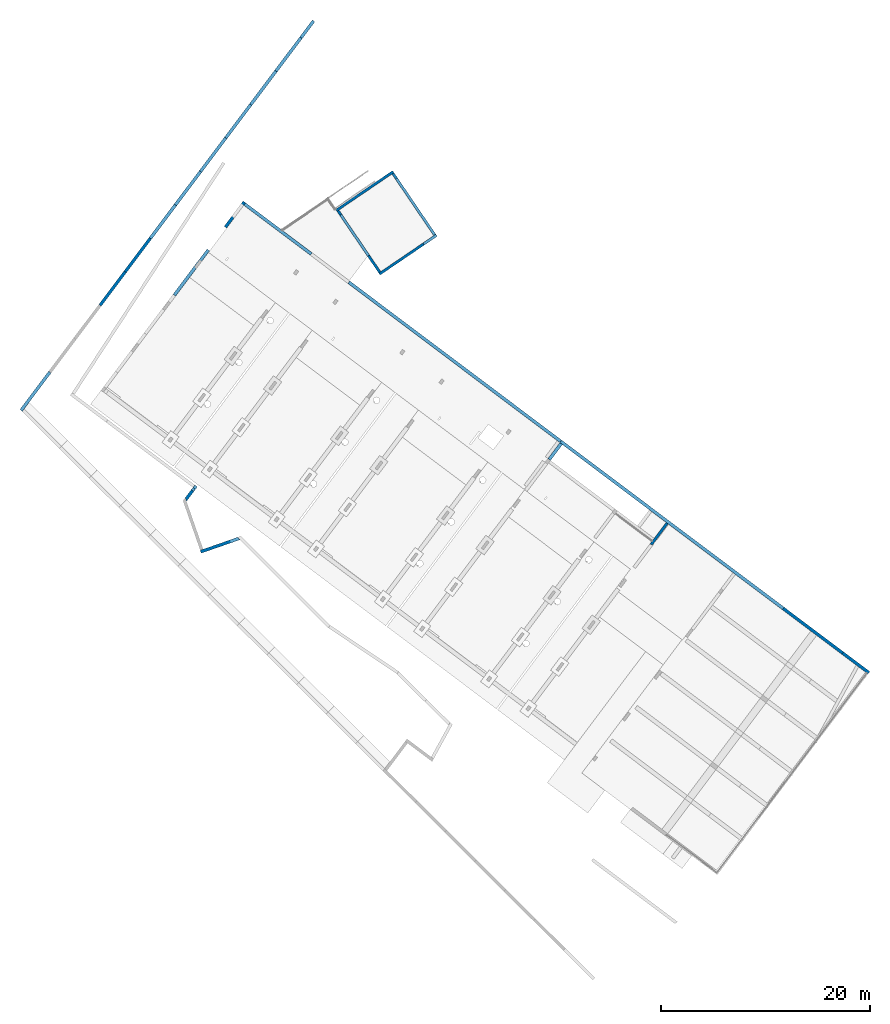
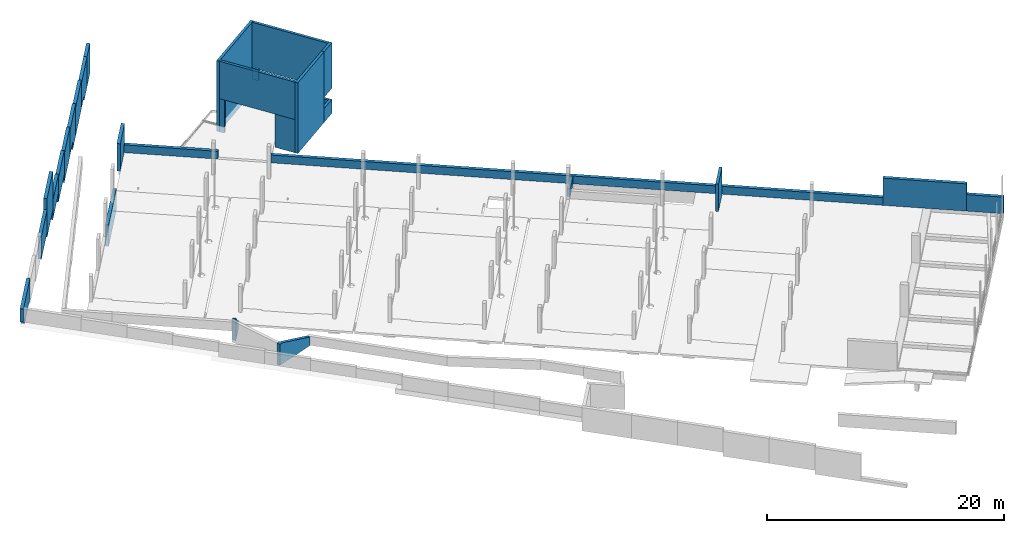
# One storey, part 22 of 24: 31 walls, 2 openings.
"""IFC2X3 building model written with IfcOpenShell, lengths in metres."""

from ifc_helpers import new_model, entity, si_unit, converted_unit, derived_unit, direction, frame, frame_2d, origin, origin_2d_with_axis, place, context, subcontext, project, spatial, rectangle, extrude, faceted_brep, material, layer, layer_set, layer_usage, type_object, element, save


model = new_model("IFC2X3")

# Units and contexts
model_context = context("Model", 3, precision=1e-05, world=origin(), true_north=direction((6.123031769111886e-17, 1.0)))
body_context = subcontext(model_context, "Body", "Model", "MODEL_VIEW")
ifc_project = project(units=[si_unit("LENGTHUNIT", "METRE"), si_unit("AREAUNIT", "SQUARE_METRE"), si_unit("VOLUMEUNIT", "CUBIC_METRE"), converted_unit("PLANEANGLEUNIT", "DEGREE", entity("IfcRatioMeasure", 0.017453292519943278), si_unit("PLANEANGLEUNIT", "RADIAN"), dimensions=[0, 0, 0, 0, 0, 0, 0]), si_unit("MASSUNIT", "GRAM", prefix="KILO"), derived_unit("MASSDENSITYUNIT", [(si_unit("MASSUNIT", "GRAM", prefix="KILO"), 1), (si_unit("LENGTHUNIT", "METRE"), -3)]), derived_unit("IONCONCENTRATIONUNIT", [(si_unit("MASSUNIT", "GRAM", prefix="KILO"), 1), (si_unit("LENGTHUNIT", "METRE"), -3)]), derived_unit("MOMENTOFINERTIAUNIT", [(si_unit("LENGTHUNIT", "METRE"), 4)]), si_unit("TIMEUNIT", "SECOND"), si_unit("FREQUENCYUNIT", "HERTZ"), si_unit("THERMODYNAMICTEMPERATUREUNIT", "DEGREE_CELSIUS"), derived_unit("THERMALTRANSMITTANCEUNIT", [(si_unit("MASSUNIT", "GRAM", prefix="KILO"), 1), (si_unit("THERMODYNAMICTEMPERATUREUNIT", "KELVIN"), -1), (si_unit("TIMEUNIT", "SECOND"), -3)]), derived_unit("THERMALCONDUCTANCEUNIT", [(si_unit("MASSUNIT", "GRAM", prefix="KILO"), 1), (si_unit("THERMODYNAMICTEMPERATUREUNIT", "KELVIN"), -1), (si_unit("TIMEUNIT", "SECOND"), -3), (si_unit("LENGTHUNIT", "METRE"), 1)]), derived_unit("VOLUMETRICFLOWRATEUNIT", [(si_unit("LENGTHUNIT", "METRE"), 3), (si_unit("TIMEUNIT", "SECOND"), -1)]), derived_unit("MASSFLOWRATEUNIT", [(si_unit("MASSUNIT", "GRAM", prefix="KILO"), 1), (si_unit("TIMEUNIT", "SECOND"), -1)]), derived_unit("ROTATIONALFREQUENCYUNIT", [(si_unit("TIMEUNIT", "SECOND"), -1)]), si_unit("ELECTRICCURRENTUNIT", "AMPERE"), si_unit("ELECTRICVOLTAGEUNIT", "VOLT"), si_unit("POWERUNIT", "WATT"), si_unit("FORCEUNIT", "NEWTON", prefix="KILO"), si_unit("ILLUMINANCEUNIT", "LUX"), si_unit("LUMINOUSFLUXUNIT", "LUMEN"), si_unit("LUMINOUSINTENSITYUNIT", "CANDELA"), derived_unit("USERDEFINED", [(si_unit("MASSUNIT", "GRAM", prefix="KILO"), -1), (si_unit("LENGTHUNIT", "METRE"), -2), (si_unit("TIMEUNIT", "SECOND"), 3), (si_unit("LUMINOUSFLUXUNIT", "LUMEN"), 1)]), derived_unit("USERDEFINED", [(si_unit("MASSUNIT", "GRAM", prefix="KILO"), 1), (si_unit("TIMEUNIT", "SECOND"), -3), (si_unit("LENGTHUNIT", "METRE"), 3), (si_unit("ELECTRICCURRENTUNIT", "AMPERE"), -2)]), derived_unit("SOUNDPOWERUNIT", [(si_unit("MASSUNIT", "GRAM", prefix="KILO"), 1), (si_unit("TIMEUNIT", "SECOND"), -3), (si_unit("LENGTHUNIT", "METRE"), 2)]), derived_unit("SOUNDPRESSUREUNIT", [(si_unit("MASSUNIT", "GRAM", prefix="KILO"), 1), (si_unit("LENGTHUNIT", "METRE"), -1), (si_unit("TIMEUNIT", "SECOND"), -2)]), derived_unit("LINEARVELOCITYUNIT", [(si_unit("LENGTHUNIT", "METRE"), 1), (si_unit("TIMEUNIT", "SECOND"), -1)]), si_unit("PRESSUREUNIT", "PASCAL"), derived_unit("USERDEFINED", [(si_unit("MASSUNIT", "GRAM", prefix="KILO"), 1), (si_unit("LENGTHUNIT", "METRE"), -2), (si_unit("TIMEUNIT", "SECOND"), -2)]), derived_unit("LINEARFORCEUNIT", [(si_unit("MASSUNIT", "GRAM", prefix="KILO"), 1), (si_unit("TIMEUNIT", "SECOND"), -2)]), derived_unit("PLANARFORCEUNIT", [(si_unit("MASSUNIT", "GRAM", prefix="KILO"), 1), (si_unit("LENGTHUNIT", "METRE"), -1), (si_unit("TIMEUNIT", "SECOND"), -2)]), derived_unit("SPECIFICHEATCAPACITYUNIT", [(si_unit("THERMODYNAMICTEMPERATUREUNIT", "KELVIN"), -1), (si_unit("LENGTHUNIT", "METRE"), 2), (si_unit("TIMEUNIT", "SECOND"), -2)]), derived_unit("HEATINGVALUEUNIT", [(si_unit("LENGTHUNIT", "METRE"), 2), (si_unit("TIMEUNIT", "SECOND"), -2)]), derived_unit("VAPORPERMEABILITYUNIT", [(si_unit("LENGTHUNIT", "METRE"), -1), (si_unit("TIMEUNIT", "SECOND"), 1)]), derived_unit("DYNAMICVISCOSITYUNIT", [(si_unit("MASSUNIT", "GRAM", prefix="KILO"), 1), (si_unit("TIMEUNIT", "SECOND"), -1), (si_unit("LENGTHUNIT", "METRE"), -1)]), derived_unit("THERMALEXPANSIONCOEFFICIENTUNIT", [(si_unit("THERMODYNAMICTEMPERATUREUNIT", "KELVIN"), -1)]), derived_unit("MODULUSOFELASTICITYUNIT", [(si_unit("MASSUNIT", "GRAM", prefix="KILO"), 1), (si_unit("LENGTHUNIT", "METRE"), -1), (si_unit("TIMEUNIT", "SECOND"), -2)]), derived_unit("ISOTHERMALMOISTURECAPACITYUNIT", [(si_unit("LENGTHUNIT", "METRE"), 3), (si_unit("MASSUNIT", "GRAM", prefix="KILO"), -1)]), derived_unit("MOISTUREDIFFUSIVITYUNIT", [(si_unit("TIMEUNIT", "SECOND"), -1), (si_unit("LENGTHUNIT", "METRE"), 2)])], contexts=[model_context])

# Site, building, storey
site_placement = place(None, origin())
site = spatial("IfcSite", under=ifc_project, at=site_placement, Name="Default", CompositionType="ELEMENT")
building_placement = place(site_placement, frame((0.0, 0.0, 235.0), z_axis=(0.0, 0.0, 1.0), x_axis=(-0.7996477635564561, 0.6004693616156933, 0.0)))
building = spatial("IfcBuilding", under=site, at=building_placement, CompositionType="ELEMENT")
storey_placement = place(building_placement, origin())
storey = spatial("IfcBuildingStorey", under=building, at=storey_placement, Name="P0- Escola", CompositionType="ELEMENT", Elevation=0.0)

# Walls
ifc_material = material(Name="_Formigó- T1- STR")
ifc_layer_1 = layer(ifc_material, 0.29999999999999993)
ifc_layer_set_1 = layer_set([ifc_layer_1], Name="Muro básico:STR- M- Formigó- Genèric- T1- 30 cm")
ifc_layer_usage_1 = layer_usage(ifc_layer_set_1, "AXIS2", "NEGATIVE", 0.14999999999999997)
wall_type_1 = type_object("IfcWallType", Name="Muro básico:STR- M- Formigó- Genèric- T1- 30 cm", PredefinedType="STANDARD", material=ifc_layer_set_1)
wall_1_placement = place(storey_placement, frame((36.49514768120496, -42.04019175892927, -0.2), z_axis=(0.0, 0.0, 1.0), x_axis=(0.0, 1.0, 0.0)))
element("IfcWallStandardCase", 1, at=wall_1_placement, inside=storey, type_object=wall_type_1, material=ifc_layer_usage_1, Name="Muro básico:STR- M- Formigó- Genèric- T1- 30 cm", ObjectType="Muro básico:STR- M- Formigó- Genèric- T1- 30 cm", context=body_context, shape_type="SweptSolid", body=[
    extrude(rectangle(XDim=1.8999999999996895, YDim=0.3000000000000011, at=frame_2d((0.9499999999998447, 0.0), x_axis=(-1.0, 0.0))), origin(), (0.0, 0.0, 1.0), 0.8),
])
ifc_layer_usage_2 = layer_usage(ifc_layer_set_1, "AXIS2", "POSITIVE", -0.14999999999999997)
wall_2_placement = place(storey_placement, frame((36.65996019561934, -42.190191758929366, -0.2)))
element("IfcWallStandardCase", 2, at=wall_2_placement, inside=storey, type_object=wall_type_1, material=ifc_layer_usage_2, Name="Muro básico:STR- M- Formigó- Genèric- T1- 30 cm", ObjectType="Muro básico:STR- M- Formigó- Genèric- T1- 30 cm", context=body_context, shape_type="SweptSolid", body=[
    extrude(rectangle(XDim=25.337332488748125, YDim=0.3000000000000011, at=frame_2d((12.668666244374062, 1.6792123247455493e-15), x_axis=(-1.0, 0.0))), origin(), (0.0, 0.0, 1.0), 0.8),
])
wall_3_placement = place(storey_placement, frame((74.59514768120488, -31.190191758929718, -2.3), z_axis=(0.0, 0.0, 1.0), x_axis=(0.0, -1.0, 0.0)))
element("IfcWallStandardCase", 3, at=wall_3_placement, inside=storey, type_object=wall_type_1, material=ifc_layer_usage_2, Name="Muro básico:STR- M- Formigó- Genèric- T1- 30 cm", ObjectType="Muro básico:STR- M- Formigó- Genèric- T1- 30 cm", context=body_context, shape_type="SweptSolid", body=[
    extrude(rectangle(XDim=5.399999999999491, YDim=0.3000000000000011, at=frame_2d((2.6999999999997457, 1.3877787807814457e-16), x_axis=(-1.0, 0.0))), origin(), (0.0, 0.0, 1.0), 2.1999999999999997),
])
wall_4_placement = place(storey_placement, frame((66.49355687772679, -42.19019175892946, -0.2)))
element("IfcWallStandardCase", 4, at=wall_4_placement, inside=storey, type_object=wall_type_1, material=ifc_layer_usage_2, Name="Muro básico:STR- M- Formigó- Genèric- T1- 30 cm", ObjectType="Muro básico:STR- M- Formigó- Genèric- T1- 30 cm", context=body_context, shape_type="SweptSolid", body=[
    extrude(rectangle(XDim=7.951590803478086, YDim=0.3000000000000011, at=frame_2d((3.975795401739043, -2.3592239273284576e-16), x_axis=(-1.0, 0.0))), origin(), (0.0, 0.0, 1.0), 0.8),
])
wall_5_placement = place(storey_placement, frame((74.59514768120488, -39.31519175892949, -0.20000000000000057), z_axis=(0.0, 0.0, 1.0), x_axis=(0.0, -1.0, 0.0)))
element("IfcWallStandardCase", 5, at=wall_5_placement, inside=storey, type_object=wall_type_1, material=ifc_layer_usage_1, Name="Muro básico:STR- M- Formigó- Genèric- T1- 30 cm", ObjectType="Muro básico:STR- M- Formigó- Genèric- T1- 30 cm", context=body_context, shape_type="SweptSolid", body=[
    extrude(rectangle(XDim=3.024999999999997, YDim=0.3000000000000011, at=frame_2d((1.5124999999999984, 0.0), x_axis=(-1.0, 0.0))), origin(), (0.0, 0.0, 1.0), 2.8000000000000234),
])
wall_6_placement = place(storey_placement, frame((57.846176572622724, -13.07810510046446, -0.5), z_axis=(0.0, 0.0, 1.0), x_axis=(-0.5575286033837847, -0.8301577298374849, 0.0)))
element("IfcWall", 6, at=wall_6_placement, inside=storey, type_object=wall_type_1, Name="Muro básico:STR- M- Formigó- Genèric- T1- 30 cm", ObjectType="Muro básico:STR- M- Formigó- Genèric- T1- 30 cm", context=body_context, shape_type="Brep", body=[
    faceted_brep([(0.0, -0.14999999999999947, 0.0), (3.9164790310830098, -0.15000000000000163, 0.0), (3.9164790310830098, -0.15000000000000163, 0.919), (3.770870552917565, -0.1499999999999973, 0.9189999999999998), (0.3000000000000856, -0.14999999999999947, 2.169000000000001), (0.0, -0.14999999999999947, 2.168999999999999), (0.0, 0.14999999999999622, 0.0), (0.0, 0.14999999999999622, 2.168999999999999), (0.30000000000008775, 0.14999999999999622, 2.169000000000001), (3.770870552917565, 0.14999999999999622, 0.919), (3.770870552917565, 0.14999999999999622, 0.0), (0.29999999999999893, 0.14999999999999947, 0.0)], [[[0, 1, 2, 3, 4, 5]], [[6, 7, 8, 9, 10, 11]], [[2, 1, 10, 9]], [[0, 5, 7, 6]], [[1, 0, 6, 11, 10]], [[3, 2, 9]], [[4, 3, 9, 8]], [[5, 4, 8, 7]]]),
])
wall_7_placement = place(storey_placement, frame((61.9818032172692, -17.843410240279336, -0.5), z_axis=(0.0, 0.0, 1.0), x_axis=(0.0, 1.0, 0.0)))
element("IfcWall", 7, at=wall_7_placement, inside=storey, type_object=wall_type_1, Name="Muro básico:STR- M- Formigó- Genèric- T1- 30 cm", ObjectType="Muro básico:STR- M- Formigó- Genèric- T1- 30 cm", context=body_context, shape_type="Brep", body=[
    faceted_brep([(0.0, -0.15000000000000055, 0.0), (0.29999999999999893, -0.15000000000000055, 0.0), (1.5257286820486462, -0.15000000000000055, 0.0), (1.5257286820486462, -0.15000000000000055, 2.169), (1.469999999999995, -0.15000000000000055, 2.1689999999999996), (0.29999999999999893, -0.15000000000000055, 0.919), (0.0, -0.15000000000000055, 0.919), (0.0, 0.15000000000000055, 0.0), (0.0, 0.15000000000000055, 0.919), (0.29999999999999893, 0.15000000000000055, 0.919), (1.469999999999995, 0.15000000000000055, 2.169), (1.7272067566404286, 0.15000000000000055, 2.169), (1.7272067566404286, 0.15000000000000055, 0.0)], [[[0, 1, 2, 3, 4, 5, 6]], [[7, 8, 9, 10, 11, 12]], [[3, 2, 12, 11]], [[0, 6, 8, 7]], [[2, 1, 0, 7, 12]], [[4, 3, 11, 10]], [[5, 4, 10, 9]], [[6, 5, 9, 8]]]),
])
wall_8_placement = place(storey_placement, frame((79.69492201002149, -30.14728884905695, -1.0500000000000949), z_axis=(0.0, 0.0, 1.0), x_axis=(0.0, -1.0, 0.0)))
element("IfcWallStandardCase", 8, at=wall_8_placement, inside=storey, type_object=wall_type_1, material=ifc_layer_usage_1, Name="Muro básico:STR- M- Formigó- Genèric- T1- 30 cm", ObjectType="Muro básico:STR- M- Formigó- Genèric- T1- 30 cm", context=body_context, shape_type="SweptSolid", body=[
    extrude(rectangle(XDim=0.3000000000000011, YDim=3.9999999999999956, at=frame_2d((0.0, -2.1094237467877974e-15), x_axis=(1.0, 0.0))), frame((2.0, 0.0, 0.0), z_axis=(0.0, 0.0, 1.0), x_axis=(0.0, 1.0, 0.0)), (0.0, 0.0, 1.0), 3.976000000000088),
])
wall_9_placement = place(storey_placement, frame((10.045147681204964, -42.19019175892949, -0.2)))
element("IfcWallStandardCase", 9, at=wall_9_placement, inside=storey, type_object=wall_type_1, material=ifc_layer_usage_2, Name="Muro básico:STR- M- Formigó- Genèric- T1- 30 cm", ObjectType="Muro básico:STR- M- Formigó- Genèric- T1- 30 cm", context=body_context, shape_type="SweptSolid", body=[
    extrude(rectangle(XDim=26.59999999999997, YDim=0.3000000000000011, at=frame_2d((13.299999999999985, -3.344546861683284e-15), x_axis=(-1.0, 0.0))), origin(), (0.0, 0.0, 1.0), 0.8),
])
wall_10_placement = place(storey_placement, frame((10.045147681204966, -42.1901917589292, -0.2), z_axis=(0.0, 0.0, 1.0), x_axis=(-1.0, 0.0, 0.0)))
element("IfcWallStandardCase", 10, at=wall_10_placement, inside=storey, type_object=wall_type_1, material=ifc_layer_usage_1, Name="Muro básico:STR- M- Formigó- Genèric- T1- 30 cm", ObjectType="Muro básico:STR- M- Formigó- Genèric- T1- 30 cm", context=body_context, shape_type="SweptSolid", body=[
    extrude(rectangle(XDim=7.100000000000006, YDim=0.3000000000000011, at=frame_2d((3.550000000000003, 0.0), x_axis=(-1.0, 0.0))), origin(), (0.0, 0.0, 1.0), 2.800000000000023),
])
wall_11_placement = place(storey_placement, frame((-0.1941665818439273, -42.19019175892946, -0.2)))
element("IfcWallStandardCase", 11, at=wall_11_placement, inside=storey, type_object=wall_type_1, material=ifc_layer_usage_2, Name="Muro básico:STR- M- Formigó- Genèric- T1- 30 cm", ObjectType="Muro básico:STR- M- Formigó- Genèric- T1- 30 cm", context=body_context, shape_type="SweptSolid", body=[
    extrude(rectangle(XDim=3.139314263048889, YDim=0.3000000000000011, at=frame_2d((1.5696571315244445, 0.0), x_axis=(-1.0, 0.0))), origin(), (0.0, 0.0, 1.0), 1.7),
])
wall_12_placement = place(storey_placement, frame((79.69492201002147, -13.551239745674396, 1.0), z_axis=(0.0, 0.0, 1.0), x_axis=(0.0, -1.0, 0.0)))
element("IfcWall", 12, at=wall_12_placement, inside=storey, type_object=wall_type_1, Name="Muro básico:STR- M- Formigó- Genèric- T1- 30 cm", ObjectType="Muro básico:STR- M- Formigó- Genèric- T1- 30 cm", context=body_context, shape_type="Brep", body=[
    faceted_brep([(0.0, -0.15000000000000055, 0.7199999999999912), (0.302944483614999, -0.15000000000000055, 0.7199999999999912), (0.8500322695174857, -0.15000000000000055, 0.7199999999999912), (0.8500322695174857, -0.15000000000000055, 0.0), (4.596049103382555, -0.15000000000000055, 0.0), (4.596049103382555, -0.15000000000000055, 2.067999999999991), (0.0, -0.15000000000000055, 2.067999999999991), (0.04213502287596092, 0.15000000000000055, 0.7199999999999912), (0.04213502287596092, 0.15000000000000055, 2.067999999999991), (4.596049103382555, 0.15000000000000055, 2.067999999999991), (4.596049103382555, 0.15000000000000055, 0.0), (0.8500322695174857, 0.15000000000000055, 0.0), (0.8500322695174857, 0.15000000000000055, 0.7199999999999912)], [[[0, 1, 2, 3, 4, 5, 6]], [[7, 8, 9, 10, 11, 12]], [[4, 3, 11, 10]], [[5, 4, 10, 9]], [[6, 5, 9, 8]], [[2, 1, 0, 7, 12]], [[3, 2, 12, 11]], [[0, 6, 8, 7]]]),
])
wall_13_placement = place(storey_placement, frame((79.69492201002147, -26.147288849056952, -0.5500000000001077), z_axis=(0.0, 0.0, 1.0), x_axis=(0.0, -1.0, 0.0)))
element("IfcWallStandardCase", 13, at=wall_13_placement, inside=storey, type_object=wall_type_1, material=ifc_layer_usage_1, Name="Muro básico:STR- M- Formigó- Genèric- T1- 30 cm", ObjectType="Muro básico:STR- M- Formigó- Genèric- T1- 30 cm", context=body_context, shape_type="SweptSolid", body=[
    extrude(rectangle(XDim=4.0, YDim=0.3000000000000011, at=frame_2d((2.0, 0.0), x_axis=(-1.0, 0.0))), origin(), (0.0, 0.0, 1.0), 2.333),
])
wall_14_placement = place(storey_placement, frame((79.69492201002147, -34.14728884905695, -2.050000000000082), z_axis=(0.0, 0.0, 1.0), x_axis=(0.0, -1.0, 0.0)))
element("IfcWallStandardCase", 14, at=wall_14_placement, inside=storey, type_object=wall_type_1, material=ifc_layer_usage_1, Name="Muro básico:STR- M- Formigó- Genèric- T1- 30 cm", ObjectType="Muro básico:STR- M- Formigó- Genèric- T1- 30 cm", context=body_context, shape_type="SweptSolid", body=[
    extrude(rectangle(XDim=4.0, YDim=0.3000000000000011, at=frame_2d((2.0, 0.0), x_axis=(-1.0, 0.0))), origin(), (0.0, 0.0, 1.0), 1.9400000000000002),
])
wall_15_placement = place(storey_placement, frame((79.69492201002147, -38.14728884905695, -3.0), z_axis=(0.0, 0.0, 1.0), x_axis=(0.0, -1.0, 0.0)))
element("IfcWallStandardCase", 15, at=wall_15_placement, inside=storey, type_object=wall_type_1, material=ifc_layer_usage_1, Name="Muro básico:STR- M- Formigó- Genèric- T1- 30 cm", ObjectType="Muro básico:STR- M- Formigó- Genèric- T1- 30 cm", context=body_context, shape_type="SweptSolid", body=[
    extrude(rectangle(XDim=4.0, YDim=0.3000000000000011, at=frame_2d((2.0, 0.0), x_axis=(-1.0, 0.0))), origin(), (0.0, 0.0, 1.0), 2.5179999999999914),
])
wall_16_placement = place(storey_placement, frame((79.69492201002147, -58.14728884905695, -5.050000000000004), z_axis=(0.0, 0.0, 1.0), x_axis=(0.0, -1.0, 0.0)))
element("IfcWallStandardCase", 16, at=wall_16_placement, inside=storey, type_object=wall_type_1, material=ifc_layer_usage_1, Name="Muro básico:STR- M- Formigó- Genèric- T1- 30 cm", ObjectType="Muro básico:STR- M- Formigó- Genèric- T1- 30 cm", context=body_context, shape_type="SweptSolid", body=[
    extrude(rectangle(XDim=2.0000000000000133, YDim=0.3000000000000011, at=frame_2d((1.0000000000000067, 0.0), x_axis=(-1.0, 0.0))), origin(), (0.0, 0.0, 1.0), 3.0800000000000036),
])

# Wall, opening
wall_17_placement = place(storey_placement, frame((79.69492201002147, -54.14728884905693, -5.0500000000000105), z_axis=(0.0, 0.0, 1.0), x_axis=(0.0, -1.0, 0.0)))
wall_17 = element("IfcWallStandardCase", 17, at=wall_17_placement, inside=storey, type_object=wall_type_1, material=ifc_layer_usage_1, Name="Muro básico:STR- M- Formigó- Genèric- T1- 30 cm", ObjectType="Muro básico:STR- M- Formigó- Genèric- T1- 30 cm", context=body_context, shape_type="SweptSolid", body=[
    extrude(rectangle(XDim=4.000000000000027, YDim=0.3000000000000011, at=frame_2d((2.0000000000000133, 0.0), x_axis=(-1.0, 0.0))), origin(), (0.0, 0.0, 1.0), 3.0800000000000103),
])
opening_1_placement = place(wall_17_placement, origin())
element("IfcOpeningElement", 18, at=opening_1_placement, cuts=wall_17, Name="Muro básico:STR- M- Formigó- Genèric- T1- 30 cm", ObjectType="Opening", context=body_context, shape_type="SweptSolid", body=[
    extrude(rectangle(XDim=0.49999999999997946, YDim=2.0000000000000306, at=origin_2d_with_axis()), frame((1.0, 0.15000000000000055, 0.24999999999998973), z_axis=(0.0, -1.0, 0.0), x_axis=(0.0, 0.0, 1.0)), (0.0, 0.0, 1.0), 0.29999999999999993),
])

# Wall
wall_18_placement = place(storey_placement, frame((79.69492201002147, -50.1472888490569, -4.550000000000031), z_axis=(0.0, 0.0, 1.0), x_axis=(0.0, -1.0, 0.0)))
element("IfcWallStandardCase", 19, at=wall_18_placement, inside=storey, type_object=wall_type_1, material=ifc_layer_usage_1, Name="Muro básico:STR- M- Formigó- Genèric- T1- 30 cm", ObjectType="Muro básico:STR- M- Formigó- Genèric- T1- 30 cm", context=body_context, shape_type="SweptSolid", body=[
    extrude(rectangle(XDim=4.000000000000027, YDim=0.3000000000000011, at=frame_2d((2.0000000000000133, 0.0), x_axis=(-1.0, 0.0))), origin(), (0.0, 0.0, 1.0), 2.9530000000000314),
])

# Wall, opening
wall_19_placement = place(storey_placement, frame((79.69492201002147, -46.14728884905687, -4.550000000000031), z_axis=(0.0, 0.0, 1.0), x_axis=(0.0, -1.0, 0.0)))
wall_19 = element("IfcWallStandardCase", 20, at=wall_19_placement, inside=storey, type_object=wall_type_1, material=ifc_layer_usage_1, Name="Muro básico:STR- M- Formigó- Genèric- T1- 30 cm", ObjectType="Muro básico:STR- M- Formigó- Genèric- T1- 30 cm", context=body_context, shape_type="SweptSolid", body=[
    extrude(rectangle(XDim=4.000000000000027, YDim=0.3000000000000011, at=frame_2d((2.0000000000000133, 0.0), x_axis=(-1.0, 0.0))), origin(), (0.0, 0.0, 1.0), 3.324000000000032),
])
opening_2_placement = place(wall_19_placement, origin())
element("IfcOpeningElement", 21, at=opening_2_placement, cuts=wall_19, Name="Muro básico:STR- M- Formigó- Genèric- T1- 30 cm", ObjectType="Opening", context=body_context, shape_type="SweptSolid", body=[
    extrude(rectangle(XDim=0.7499999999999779, YDim=2.0000000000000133, at=origin_2d_with_axis()), frame((1.0, 0.15000000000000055, 0.37499999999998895), z_axis=(0.0, -1.0, 0.0), x_axis=(0.0, 0.0, 1.0)), (0.0, 0.0, 1.0), 0.29999999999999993),
])

# Walls
wall_20_placement = place(storey_placement, frame((79.69492201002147, -42.14728884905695, -3.8000000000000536), z_axis=(0.0, 0.0, 1.0), x_axis=(0.0, -1.0, 0.0)))
element("IfcWallStandardCase", 22, at=wall_20_placement, inside=storey, type_object=wall_type_1, material=ifc_layer_usage_1, Name="Muro básico:STR- M- Formigó- Genèric- T1- 30 cm", ObjectType="Muro básico:STR- M- Formigó- Genèric- T1- 30 cm", context=body_context, shape_type="SweptSolid", body=[
    extrude(rectangle(XDim=3.9999999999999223, YDim=0.3000000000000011, at=frame_2d((1.9999999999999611, 0.0), x_axis=(-1.0, 0.0))), origin(), (0.0, 0.0, 1.0), 2.9460000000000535),
])
ifc_layer_2 = layer(ifc_material, 0.24999999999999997)
ifc_layer_set_2 = layer_set([ifc_layer_2], Name="Muro básico:STR- M- Formigó- Genèric- T1- 25 cm")
ifc_layer_usage_3 = layer_usage(ifc_layer_set_2, "AXIS2", "POSITIVE", -0.12499999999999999)
wall_type_2 = type_object("IfcWallType", Name="Muro básico:STR- M- Formigó- Genèric- T1- 25 cm", PredefinedType="STANDARD", material=ifc_layer_set_2)
wall_21_placement = place(storey_placement, frame((60.1310531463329, -44.57296146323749, -0.8199999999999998), z_axis=(0.0, 0.0, 1.0), x_axis=(-0.3241555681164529, -0.946003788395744, 0.0)))
element("IfcWallStandardCase", 23, at=wall_21_placement, inside=storey, type_object=wall_type_2, material=ifc_layer_usage_3, Name="Muro básico:STR- M- Formigó- Genèric- T1- 25 cm", ObjectType="Muro básico:STR- M- Formigó- Genèric- T1- 25 cm", context=body_context, shape_type="SweptSolid", body=[
    extrude(rectangle(XDim=5.099999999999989, YDim=0.24999999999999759, at=frame_2d((2.5499999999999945, 3.2612801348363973e-16), x_axis=(-1.0, 0.0))), origin(), (0.0, 0.0, 1.0), 7.2700000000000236),
])
wall_22_placement = place(storey_placement, frame((64.94475424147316, -53.199129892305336, -0.8199999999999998), z_axis=(0.0, 0.0, 1.0), x_axis=(0.32415556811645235, 0.9460037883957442, 0.0)))
element("IfcWallStandardCase", 24, at=wall_22_placement, inside=storey, type_object=wall_type_2, material=ifc_layer_usage_3, Name="Muro básico:STR- M- Formigó- Genèric- T1- 25 cm", ObjectType="Muro básico:STR- M- Formigó- Genèric- T1- 25 cm", context=body_context, shape_type="SweptSolid", body=[
    extrude(rectangle(XDim=6.599999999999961, YDim=0.24999999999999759, at=frame_2d((3.2999999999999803, -8.951173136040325e-16), x_axis=(-1.0, 0.0))), origin(), (0.0, 0.0, 1.0), 7.2700000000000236),
])
wall_23_placement = place(storey_placement, frame((66.9254110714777, -47.03323591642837, 2.600000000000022), z_axis=(0.0, 0.0, 1.0), x_axis=(-0.9460037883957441, 0.32415556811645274, 0.0)))
element("IfcWallStandardCase", 25, at=wall_23_placement, inside=storey, type_object=wall_type_2, material=ifc_layer_usage_3, Name="Muro básico:STR- M- Formigó- Genèric- T1- 25 cm", ObjectType="Muro básico:STR- M- Formigó- Genèric- T1- 25 cm", context=body_context, shape_type="SweptSolid", body=[
    extrude(rectangle(XDim=7.100000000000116, YDim=0.24999999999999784, at=frame_2d((3.550000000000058, 2.7547408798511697e-15), x_axis=(-1.0, 0.0))), origin(), (0.0, 0.0, 1.0), 3.850000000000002),
])
wall_24_placement = place(storey_placement, frame((58.47785974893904, -49.397580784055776, -0.8200000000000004), z_axis=(0.0, 0.0, 1.0), x_axis=(-0.32415556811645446, -0.9460037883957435, 0.0)))
element("IfcWallStandardCase", 26, at=wall_24_placement, inside=storey, type_object=wall_type_2, material=ifc_layer_usage_3, Name="Muro básico:STR- M- Formigó- Genèric- T1- 25 cm", ObjectType="Muro básico:STR- M- Formigó- Genèric- T1- 25 cm", context=body_context, shape_type="SweptSolid", body=[
    extrude(rectangle(XDim=1.5000000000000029, YDim=0.24999999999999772, at=frame_2d((0.7500000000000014, -1.97758476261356e-15), x_axis=(-1.0, 0.0))), origin(), (0.0, 0.0, 1.0), 1.4200000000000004),
])
wall_25_placement = place(storey_placement, frame((58.150396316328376, -50.73885543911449, -0.8200000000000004), z_axis=(0.0, 0.0, 1.0), x_axis=(0.9460037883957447, -0.3241555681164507, 0.0)))
element("IfcWallStandardCase", 27, at=wall_25_placement, inside=storey, type_object=wall_type_2, material=ifc_layer_usage_3, Name="Muro básico:STR- M- Formigó- Genèric- T1- 25 cm", ObjectType="Muro básico:STR- M- Formigó- Genèric- T1- 25 cm", context=body_context, shape_type="SweptSolid", body=[
    extrude(rectangle(XDim=7.100000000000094, YDim=0.24999999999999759, at=frame_2d((3.550000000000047, 4.579669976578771e-16), x_axis=(-1.0, 0.0))), origin(), (0.0, 0.0, 1.0), 1.4200000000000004),
])
wall_26_placement = place(storey_placement, frame((58.47785974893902, -49.397580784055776, 1.749999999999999), z_axis=(0.0, 0.0, 1.0), x_axis=(-0.32415556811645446, -0.9460037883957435, 0.0)))
element("IfcWallStandardCase", 28, at=wall_26_placement, inside=storey, type_object=wall_type_2, material=ifc_layer_usage_3, Name="Muro básico:STR- M- Formigó- Genèric- T1- 25 cm", ObjectType="Muro básico:STR- M- Formigó- Genèric- T1- 25 cm", context=body_context, shape_type="SweptSolid", body=[
    extrude(rectangle(XDim=1.499999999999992, YDim=0.24999999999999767, at=frame_2d((0.749999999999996, 7.28583859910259e-16), x_axis=(-1.0, 0.0))), origin(), (0.0, 0.0, 1.0), 4.700000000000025),
])
wall_27_placement = place(storey_placement, frame((58.150396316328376, -50.73885543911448, 1.749999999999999), z_axis=(0.0, 0.0, 1.0), x_axis=(0.9460037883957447, -0.3241555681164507, 0.0)))
element("IfcWallStandardCase", 29, at=wall_27_placement, inside=storey, type_object=wall_type_2, material=ifc_layer_usage_3, Name="Muro básico:STR- M- Formigó- Genèric- T1- 25 cm", ObjectType="Muro básico:STR- M- Formigó- Genèric- T1- 25 cm", context=body_context, shape_type="SweptSolid", body=[
    extrude(rectangle(XDim=7.100000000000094, YDim=0.24999999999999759, at=frame_2d((3.550000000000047, 4.579669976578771e-16), x_axis=(-1.0, 0.0))), origin(), (0.0, 0.0, 1.0), 4.700000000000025),
])
ifc_layer_usage_4 = layer_usage(ifc_layer_set_2, "AXIS2", "NEGATIVE", 0.12499999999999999)
wall_28_placement = place(storey_placement, frame((62.010020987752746, -45.34893920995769, -0.8200000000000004), z_axis=(0.0, 0.0, 1.0), x_axis=(-0.9460037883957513, 0.3241555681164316, 0.0)))
element("IfcWallStandardCase", 30, at=wall_28_placement, inside=storey, type_object=wall_type_2, material=ifc_layer_usage_4, Name="Muro básico:STR- M- Formigó- Genèric- T1- 25 cm", ObjectType="Muro básico:STR- M- Formigó- Genèric- T1- 25 cm", context=body_context, shape_type="SweptSolid", body=[
    extrude(rectangle(XDim=1.9040482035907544, YDim=0.24999999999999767, at=frame_2d((0.9520241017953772, 1.1032841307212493e-15), x_axis=(-1.0, 0.0))), origin(), (0.0, 0.0, 1.0), 3.4200000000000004),
])
wall_29_placement = place(storey_placement, frame((66.4798659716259, -46.88056641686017, -0.8199999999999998), z_axis=(0.0, 0.0, 1.0), x_axis=(0.9460037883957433, -0.3241555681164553, 0.0)))
element("IfcWallStandardCase", 31, at=wall_29_placement, inside=storey, type_object=wall_type_2, material=ifc_layer_usage_4, Name="Muro básico:STR- M- Formigó- Genèric- T1- 25 cm", ObjectType="Muro básico:STR- M- Formigó- Genèric- T1- 25 cm", context=body_context, shape_type="SweptSolid", body=[
    extrude(rectangle(XDim=0.47097602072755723, YDim=0.24999999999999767, at=frame_2d((0.23548801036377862, -3.878841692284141e-15), x_axis=(-1.0, 0.0))), origin(), (0.0, 0.0, 1.0), 3.4200000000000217),
])
wall_30_placement = place(storey_placement, frame((23.820147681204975, -42.04019175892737, -0.2), z_axis=(0.0, 0.0, 1.0), x_axis=(0.0, 1.0, 0.0)))
element("IfcWallStandardCase", 32, at=wall_30_placement, inside=storey, type_object=wall_type_2, material=ifc_layer_usage_3, Name="Muro básico:STR- M- Formigó- Genèric- T1- 25 cm", ObjectType="Muro básico:STR- M- Formigó- Genèric- T1- 25 cm", context=body_context, shape_type="SweptSolid", body=[
    extrude(rectangle(XDim=2.5499999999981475, YDim=0.2500000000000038, at=frame_2d((1.2749999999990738, -1.582067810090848e-15), x_axis=(-1.0, 0.0))), origin(), (0.0, 0.0, 1.0), 2.8000000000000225),
])
wall_31_placement = place(storey_placement, frame((64.86702321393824, -53.04035997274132, 0.6000000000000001), z_axis=(0.0, 0.0, 1.0), x_axis=(-0.9460037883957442, 0.3241555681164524, 0.0)))
element("IfcWallStandardCase", 33, at=wall_31_placement, inside=storey, type_object=wall_type_2, material=ifc_layer_usage_4, Name="Muro básico:STR- M- Formigó- Genèric- T1- 25 cm", ObjectType="Muro básico:STR- M- Formigó- Genèric- T1- 25 cm", context=body_context, shape_type="SweptSolid", body=[
    extrude(rectangle(XDim=0.6000000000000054, YDim=0.24999999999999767, at=frame_2d((0.3000000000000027, 2.2898349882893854e-16), x_axis=(-1.0, 0.0))), origin(), (0.0, 0.0, 1.0), 1.149999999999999),
])

save(model, "model.ifc")
